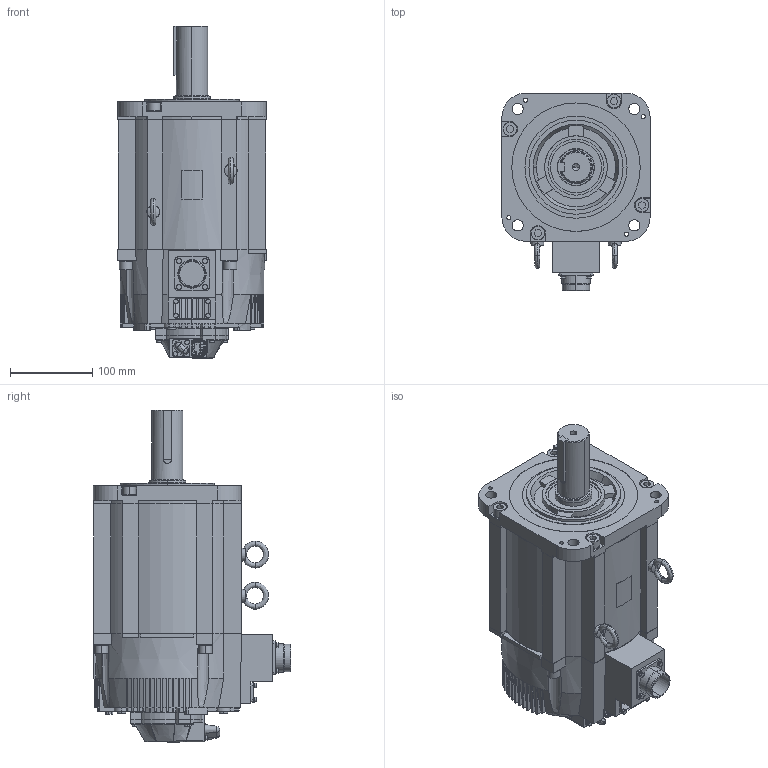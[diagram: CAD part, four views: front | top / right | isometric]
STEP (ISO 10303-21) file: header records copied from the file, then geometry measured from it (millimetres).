
FILE_DESCRIPTION (( 'STEP AP214' ), '1' );
FILE_NAME ('SGM7G-55APK-YR1.STEP', '2021-04-12T14:39:41', ( '' ), ( '' ), 'SwSTEP 2.0', 'SolidWorks 2019', '' );
FILE_SCHEMA (( 'AUTOMOTIVE_DESIGN' ));
Length unit declared in the file: millimetre
Products named in the file (1): SGM7G-55APK-YR1
Bounding box: 180 x 239.85 x 403 mm (x, y, z)
Volume: 7490878 mm3; surface area: 346944.5 mm2
Topology: 4 solids, 4 shells, 1165 faces, 3028 edges, 1963 vertices
Faces by surface type: plane 683, cylinder 317, cone 105, bspline 60
Entity records: 41351 total; most frequent: CARTESIAN_POINT 9480, ORIENTED_EDGE 6032, DIRECTION 5937, EDGE_CURVE 3016, AXIS2_PLACEMENT_3D 2112, VERTEX_POINT 1963, LINE 1713, VECTOR 1713
